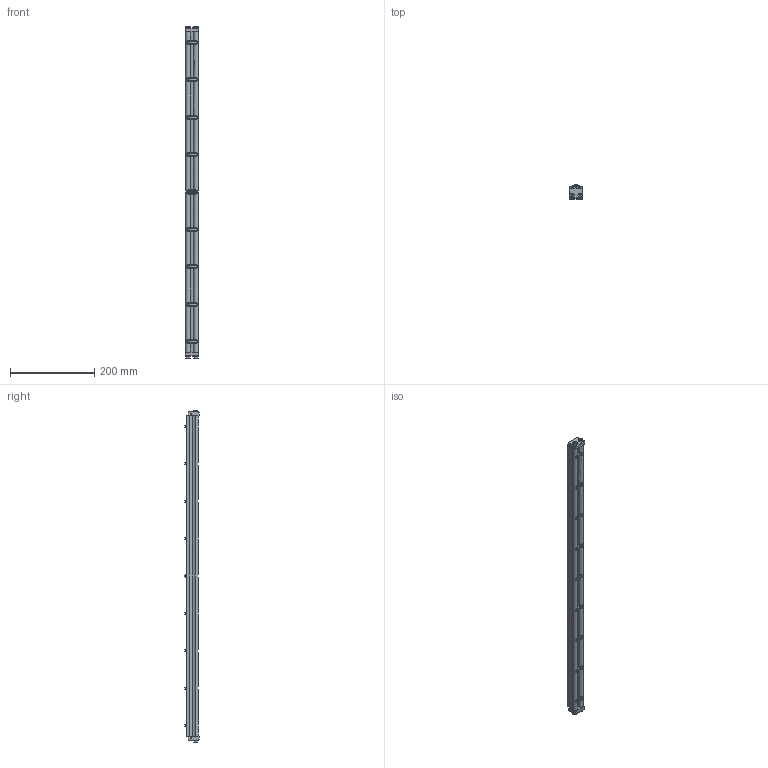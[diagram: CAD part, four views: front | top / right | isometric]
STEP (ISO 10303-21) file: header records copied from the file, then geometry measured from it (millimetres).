
FILE_DESCRIPTION((''),'2;1');
FILE_NAME('324930_ASM','2023-03-14T',('jenni.wallner'),(''),'PRO/ENGINEER BY PARAMETRIC TECHNOLOGY CORPORATION, 2012420','PRO/ENGINEER BY PARAMETRIC TECHNOLOGY CORPORATION, 2012420','');
FILE_SCHEMA(('CONFIG_CONTROL_DESIGN'));
Length unit declared in the file: inch
Products named in the file (7): X920693M; 240826; 2436WW_243630; 2410WW_CAE_241030; 240827_CAE; ASM0001_ASM; 324930_ASM
Assembly tree (18 placements, depth 3):
  324930_ASM
    ASM0001_ASM
      X920693M  x4
      240826  x9
      2436WW_243630
      2410WW_CAE_241030
      240827_CAE  x2
Bounding box: 30.88 x 33.34 x 789.41 mm (x, y, z)
Volume: 376050 mm3; surface area: 222951.7 mm2
Topology: 17 solids, 17 shells, 573 faces, 1616 edges, 1067 vertices
Faces by surface type: cylinder 261, plane 200, cone 76, torus 36
Entity records: 14010 total; most frequent: CARTESIAN_POINT 3701, ORIENTED_EDGE 2264, DIRECTION 2085, EDGE_CURVE 1132, AXIS2_PLACEMENT_3D 778, VERTEX_POINT 755, VECTOR 529, LINE 529
